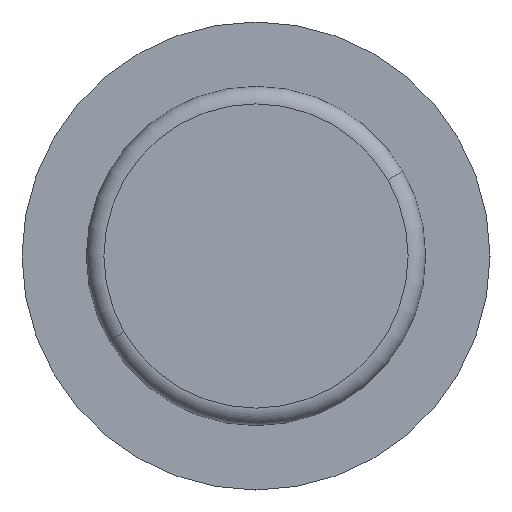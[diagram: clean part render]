
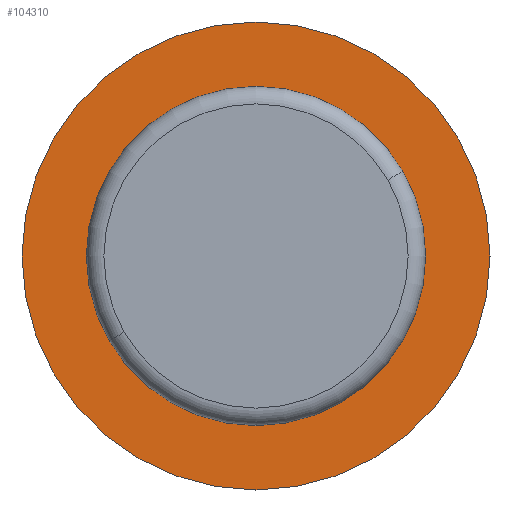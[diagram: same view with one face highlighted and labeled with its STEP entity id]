
A CAD part, front view. The second image highlights one B-rep face of the part: STEP entity #104310.
In plain terms, the highlighted planar face has unit normal (0, -1, 0).
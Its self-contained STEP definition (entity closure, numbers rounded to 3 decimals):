
#84490=CARTESIAN_POINT('',(6.259,-5.768,
0.128));
#84500=VERTEX_POINT('',#84490);
#84550=CARTESIAN_POINT('',(23.579,-5.768,
10.128));
#84560=DIRECTION('',(0.,1.,0.));
#84570=DIRECTION('',(-0.866,0.,
-0.5));
#84580=AXIS2_PLACEMENT_3D('',#84550,#84560,#84570);
#84590=CIRCLE('',#84580,20.);
#84600=CARTESIAN_POINT('',(40.9,-5.768,
20.128));
#84610=VERTEX_POINT('',#84600);
#84620=EDGE_CURVE('',#84610,#84500,#84590,.T.);
#101120=EDGE_CURVE('',#84500,#84610,#84590,.T.);
#104070=CARTESIAN_POINT('',(35.374,-5.768,
3.499));
#104080=DIRECTION('',(0.,1.,0.));
#104090=DIRECTION('',(-0.866,0.,
-0.5));
#104100=AXIS2_PLACEMENT_3D('',#104070,#104080,#104090);
#104110=PLANE('',#104100);
#104120=CARTESIAN_POINT('',(23.579,-5.768,
10.128));
#104130=DIRECTION('',(0.,1.,0.));
#104140=DIRECTION('',(-0.866,0.,
-0.5));
#104150=AXIS2_PLACEMENT_3D('',#104120,#104130,#104140);
#104160=CIRCLE('',#104150,13.1);
#104170=CARTESIAN_POINT('',(12.234,-5.768,
3.578));
#104180=VERTEX_POINT('',#104170);
#104190=CARTESIAN_POINT('',(34.924,-5.768,
16.678));
#104200=VERTEX_POINT('',#104190);
#104210=EDGE_CURVE('',#104180,#104200,#104160,.T.);
#104220=ORIENTED_EDGE('',*,*,#104210,.T.);
#104230=EDGE_CURVE('',#104200,#104180,#104160,.T.);
#104240=ORIENTED_EDGE('',*,*,#104230,.T.);
#104250=EDGE_LOOP('',(#104240,#104220));
#104260=FACE_BOUND('',#104250,.T.);
#104270=ORIENTED_EDGE('',*,*,#101120,.F.);
#104280=ORIENTED_EDGE('',*,*,#84620,.F.);
#104290=EDGE_LOOP('',(#104280,#104270));
#104300=FACE_OUTER_BOUND('',#104290,.T.);
#104310=ADVANCED_FACE('',(#104260,#104300),#104110,.F.);
